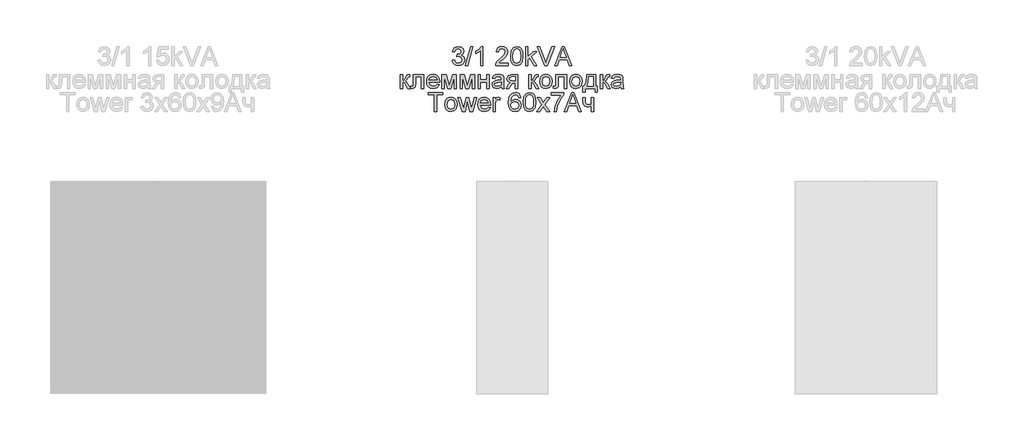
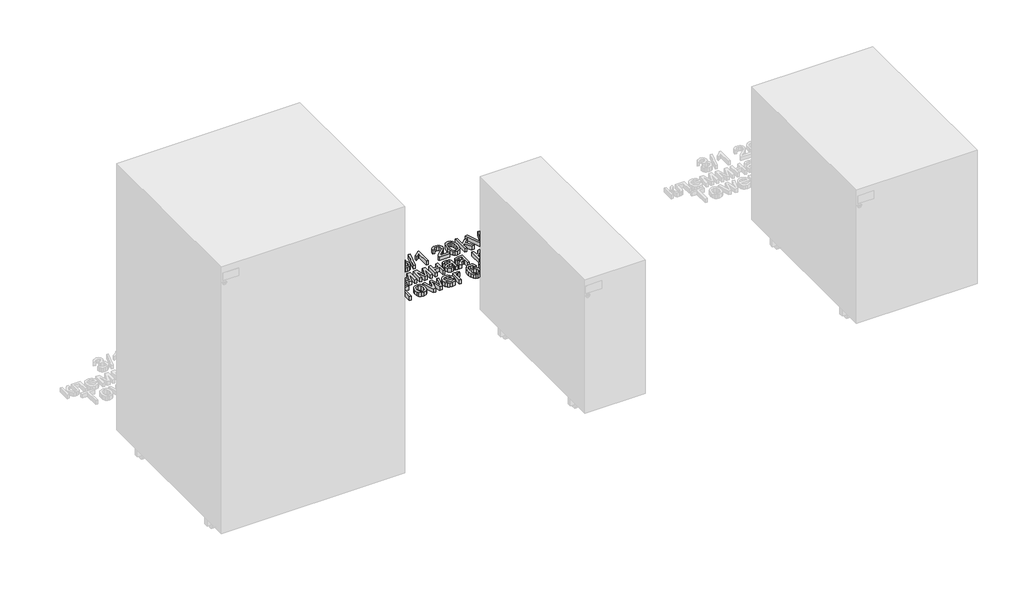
# One storey, part 47 of 74: 1 proxy.
"""IFC4 building model written with IfcOpenShell, lengths in millimetres."""

from ifc_helpers import new_model, si_unit, origin, origin_with_axes, place, context, project, spatial, polyline, outline, extrude, element, save

model = new_model("IFC4")

# Units and contexts
model_context = context("Model", 3, world=origin())
ifc_project = project(units=[si_unit("LENGTHUNIT", "METRE", prefix="MILLI")], contexts=[model_context])

# Site, building, storey
site = spatial("IfcSite", under=ifc_project)
building = spatial("IfcBuilding", under=site)
storey = spatial("IfcBuildingStorey", under=building, Name="Этаж 01", Elevation=0.0)

# Proxy
placement = place(None, origin())
element("IfcBuildingElementProxy", 1, Name="80 мм Arial", ObjectType="80 мм Arial", at=placement, inside=storey, context=model_context, shape_type="SweptSolid", body=[
    extrude(outline(polyline([(13098.3137414, -15105.2863601), (13108.3593724, -15104.0306562), (13113.9021278, -15114.6060373), (13124.2714949, -15117.8433988), (13136.475367, -15113.3895741), (13141.0076732, -15102.3629245), (13136.5146077, -15091.9739369), (13125.0955506, -15087.8634688), (13118.0518367, -15088.9622097), (13119.1701979, -15078.9165786), (13120.7790685, -15079.0343009), (13132.1785053, -15076.150106), (13137.2405615, -15067.2816974), (13133.5715518, -15059.423738), (13124.114532, -15056.3139089), (13114.5397899, -15059.4531685), (13109.6150762, -15068.8709476), (13099.5694452, -15067.6152437), (13107.7903816, -15051.8600842), (13123.7613652, -15046.2682778), (13135.8769456, -15049.0249403), (13144.3529468, -15056.5591635), (13147.2861926, -15066.6930862), (13144.5000996, -15075.9539023), (13136.2595429, -15082.6052088), (13147.2077111, -15089.4723394), (13151.0533042, -15102.5395078), (13149.1305076, -15112.330074), (13143.3621179, -15120.5117696), (13134.6555774, -15126.0447148), (13123.9183282, -15127.8890298), (13114.2062435, -15126.3144949), (13106.2992332, -15121.5908901), (13100.8006236, -15114.3656877), (13098.3137414, -15105.2863601)])), origin_with_axes(), (0.0, 0.0, 1.0), 20.0),
    extrude(outline(polyline([(13154.8204158, -15126.633326), (13177.4230856, -15046.2682778), (13186.487698, -15046.2682778), (13163.8850282, -15126.633326), (13154.8204158, -15126.633326)])), origin_with_axes(), (0.0, 0.0, 1.0), 20.0),
    extrude(outline(polyline([(13228.9069446, -15126.633326), (13218.8613135, -15126.633326), (13218.8613135, -15064.0050951), (13209.3454326, -15070.783934), (13198.7700515, -15075.8558004), (13198.7700515, -15066.3595399), (13213.4951415, -15056.9613812), (13222.4322214, -15046.2682778), (13228.9069446, -15046.2682778), (13228.9069446, -15126.633326)])), origin_with_axes(), (0.0, 0.0, 1.0), 20.0),
    extrude(outline(polyline([(13335.6417741, -15116.5876949), (13335.6417741, -15126.633326), (13282.9022113, -15126.633326), (13283.9813318, -15119.7073343), (13290.0832678, -15109.0436615), (13302.6599269, -15097.3989701), (13320.0043367, -15080.6627918), (13324.3404392, -15069.2829755), (13320.2495914, -15060.0712103), (13309.5662983, -15056.3139089), (13298.4317365, -15059.9829186), (13294.2035461, -15070.1266515), (13284.1579151, -15068.8709476), (13286.5932939, -15059.1539579), (13291.8589116, -15052.0562879), (13299.6800828, -15047.7152804), (13309.7821224, -15046.2682778), (13319.9577384, -15047.8771484), (13327.7641943, -15052.7037602), (13332.7306012, -15059.9142473), (13334.3860702, -15068.6747439), (13332.6006163, -15078.200435), (13326.6654534, -15088.0498623), (13312.2739098, -15101.813554), (13300.71751, -15111.4765878), (13296.1852038, -15116.5876949), (13335.6417741, -15116.5876949)])), origin_with_axes(), (0.0, 0.0, 1.0), 20.0),
    extrude(outline(polyline([(13345.6874051, -15087.0982742), (13348.6402712, -15063.9756645), (13357.410578, -15050.643621), (13372.0571865, -15046.2682778), (13383.7901696, -15048.8581671), (13391.8933837, -15056.323719), (13396.6022732, -15068.2136651), (13398.4269679, -15087.0982742), (13395.5035323, -15110.122782), (13386.7626561, -15123.4842561), (13372.0571865, -15127.8890298), (13361.619148, -15125.9760435), (13353.6925173, -15120.2370843), (13347.6886832, -15106.6450709), (13345.6874051, -15087.0982742)]), holes=[polyline([(13355.7330361, -15087.0786538), (13356.9102585, -15102.8804118), (13360.4419257, -15112.0259582), (13372.0571865, -15117.8433988), (13383.6724474, -15112.0063378), (13387.2041145, -15102.8558863), (13388.3813369, -15087.0786538), (13387.2433553, -15071.6325151), (13383.8294104, -15062.4158449), (13378.5809606, -15057.8393929), (13371.9394643, -15056.3139089), (13360.5988886, -15061.6898911), (13356.9494992, -15071.4804572), (13355.7330361, -15087.0786538)])]), origin_with_axes(), (0.0, 0.0, 1.0), 20.0),
    extrude(outline(polyline([(13409.7283028, -15126.633326), (13409.7283028, -15046.2682778), (13419.7739338, -15046.2682778), (13419.7739338, -15089.452719), (13442.2981221, -15067.6152437), (13456.1893463, -15067.6152437), (13433.3904728, -15089.7274042), (13457.4450501, -15126.633326), (13445.712067, -15126.633326), (13426.1897958, -15096.712257), (13419.7739338, -15102.9319153), (13419.7739338, -15126.633326), (13409.7283028, -15126.633326)])), origin_with_axes(), (0.0, 0.0, 1.0), 20.0),
    extrude(outline(polyline([(13532.2182919, -15126.633326), (13564.2976019, -15046.2682778), (13572.8520846, -15046.2682778), (13604.9313946, -15126.633326), (13594.3167727, -15126.633326), (13585.1148177, -15101.5192484), (13552.0152484, -15101.5192484), (13542.8329138, -15126.633326), (13532.2182919, -15126.633326)]), holes=[polyline([(13555.7038785, -15091.4736174), (13581.445808, -15091.4736174), (13574.2058903, -15071.7159017), (13568.5748432, -15056.3139089), (13563.5716481, -15069.9893089), (13555.7038785, -15091.4736174)])]), origin_with_axes(), (0.0, 0.0, 1.0), 20.0),
    extrude(outline(polyline([(13491.2313326, -15126.633326), (13459.2501245, -15046.2682778), (13470.0020889, -15046.2682778), (13491.4079159, -15104.1679988), (13495.7440184, -15117.2155469), (13500.0212597, -15104.1679988), (13521.4859479, -15046.2682778), (13532.2379123, -15046.2682778), (13501.6105099, -15126.633326), (13491.2313326, -15126.633326)])), origin_with_axes(), (0.0, 0.0, 1.0), 20.0),
    extrude(outline(polyline([(12879.1934148, -15165.195098), (12889.2390459, -15165.195098), (12889.2390459, -15190.3091756), (12895.9688338, -15188.5041012), (12901.4821587, -15177.9875813), (12906.0635158, -15168.9131587), (12910.1053126, -15165.9602926), (12917.4531423, -15165.195098), (12919.3759389, -15165.195098), (12919.3759389, -15175.2995902), (12916.6683274, -15175.240729), (12911.7632341, -15176.3002292), (12908.3100485, -15182.9122949), (12904.2584414, -15190.0639209), (12898.5783434, -15193.5661575), (12904.9157239, -15197.4755168), (12911.1353822, -15205.7111684), (12921.8873467, -15224.2131802), (12910.4682895, -15224.2131802), (12899.9321492, -15206.1035759), (12894.6346485, -15198.4418202), (12889.2390459, -15196.5876949), (12889.2390459, -15224.2131802), (12879.1934148, -15224.2131802), (12879.1934148, -15165.195098)])), origin_with_axes(), (0.0, 0.0, 1.0), 20.0),
    extrude(outline(polyline([(12933.1886815, -15165.195098), (12978.3940211, -15165.195098), (12978.3940211, -15224.1543191), (12968.3483901, -15224.1543191), (12968.3483901, -15175.240729), (12943.2343126, -15175.240729), (12943.2343126, -15203.3959644), (12942.5574097, -15216.3846514), (12938.839349, -15221.8685457), (12930.0494219, -15224.2131802), (12921.8873467, -15223.7030505), (12921.8873467, -15214.1675492), (12926.3804121, -15214.1675492), (12930.9225285, -15213.5495075), (12932.737413, -15211.5874702), (12933.1886815, -15202.8269736), (12933.1886815, -15165.195098)])), origin_with_axes(), (0.0, 0.0, 1.0), 20.0),
    extrude(outline(polyline([(13034.7829733, -15206.633326), (13044.6324006, -15207.8890298), (13035.4206355, -15220.8580964), (13018.2626192, -15225.4688841), (13006.4756801, -15223.4798688), (12997.4061626, -15217.5128228), (12991.6230577, -15207.9552486), (12989.695356, -15195.1946485), (12991.642678, -15182.0048527), (12997.4846441, -15172.1407101), (13006.4315342, -15165.9897231), (13017.6936284, -15163.9393941), (13028.6050084, -15165.984818), (13037.3238116, -15172.1210897), (13043.0406979, -15181.9656119), (13044.9463266, -15195.1357873), (13044.8874655, -15197.8433988), (12999.740987, -15197.8433988), (13005.5191869, -15210.8909469), (13018.4588229, -15215.4232531), (13028.3082502, -15213.3238732), (13034.7829733, -15206.633326)]), holes=[polyline([(12999.740987, -15187.7977678), (13034.9006956, -15187.7977678), (13030.8785191, -15178.6939147), (13017.6543876, -15173.9850252), (13005.2837424, -15177.7423266), (12999.740987, -15187.7977678)])]), origin_with_axes(), (0.0, 0.0, 1.0), 20.0),
    extrude(outline(polyline([(13054.9919576, -15165.195098), (13072.2775063, -15165.195098), (13085.5997396, -15212.4409564), (13099.9618527, -15165.195098), (13116.5214476, -15165.195098), (13116.5214476, -15224.2131802), (13106.4758166, -15224.2131802), (13106.4758166, -15176.6926366), (13092.035222, -15224.2131802), (13078.8503313, -15224.2131802), (13065.0375886, -15174.4166734), (13065.0375886, -15224.2131802), (13054.9919576, -15224.2131802), (13054.9919576, -15165.195098)])), origin_with_axes(), (0.0, 0.0, 1.0), 20.0),
    extrude(outline(polyline([(13131.5898941, -15165.195098), (13148.8754428, -15165.195098), (13162.1976761, -15212.4409564), (13176.5597892, -15165.195098), (13193.1193841, -15165.195098), (13193.1193841, -15224.2131802), (13183.073753, -15224.2131802), (13183.073753, -15176.6926366), (13168.6331585, -15224.2131802), (13155.4482678, -15224.2131802), (13141.6355251, -15174.4166734), (13141.6355251, -15224.2131802), (13131.5898941, -15224.2131802), (13131.5898941, -15165.195098)])), origin_with_axes(), (0.0, 0.0, 1.0), 20.0),
    extrude(outline(polyline([(13208.1878306, -15165.195098), (13218.2334616, -15165.195098), (13218.2334616, -15187.7977678), (13244.603243, -15187.7977678), (13244.603243, -15165.195098), (13254.648874, -15165.195098), (13254.648874, -15224.2131802), (13244.603243, -15224.2131802), (13244.603243, -15197.8433988), (13218.2334616, -15197.8433988), (13218.2334616, -15224.2131802), (13208.1878306, -15224.2131802), (13208.1878306, -15165.195098)])), origin_with_axes(), (0.0, 0.0, 1.0), 20.0),
    extrude(outline(polyline([(13307.3884369, -15216.678957), (13297.6469216, -15223.4872264), (13286.885147, -15225.4688841), (13272.2973996, -15220.7011335), (13267.2059128, -15208.5168818), (13269.1287094, -15200.5706307), (13274.1809554, -15194.802241), (13281.2148592, -15191.5060183), (13289.9066844, -15189.9952496), (13307.3295757, -15186.5420639), (13307.3884369, -15184.3053414), (13304.6219643, -15176.8888404), (13293.5168331, -15173.9850252), (13283.3534798, -15175.9176319), (13278.5072477, -15182.7749523), (13268.4616167, -15181.5192484), (13272.8075293, -15171.7090619), (13281.5582157, -15165.9602926), (13294.8117777, -15163.9393941), (13306.9862192, -15165.7248481), (13313.86316, -15170.2081033), (13316.9435585, -15177.026183), (13317.4340679, -15185.8161101), (13317.4340679, -15198.3142878), (13317.9441976, -15215.7666096), (13319.9454756, -15224.2131802), (13309.8998446, -15224.2131802), (13307.3884369, -15216.678957)]), holes=[polyline([(13307.3884369, -15196.5876949), (13291.1820087, -15199.6680935), (13282.5392344, -15201.2965845), (13278.6249699, -15203.9453348), (13277.2515438, -15207.8105483), (13280.2436507, -15213.2453917), (13289.0237677, -15215.4232531), (13299.1871209, -15213.0197574), (13305.7403255, -15207.2023168), (13307.3295757, -15199.432649), (13307.3884369, -15196.5876949)])]), origin_with_axes(), (0.0, 0.0, 1.0), 20.0),
    extrude(outline(polyline([(13376.4521501, -15165.195098), (13376.4521501, -15224.2131802), (13366.4065191, -15224.2131802), (13366.4065191, -15201.6105105), (13360.932435, -15201.6105105), (13353.4766932, -15202.8858347), (13346.47222, -15211.4599377), (13338.4671078, -15224.2131802), (13326.8518469, -15224.2131802), (13336.9367187, -15208.0852336), (13345.4912014, -15199.7269546), (13333.797459, -15193.6250186), (13329.9911066, -15182.2452022), (13335.1905055, -15169.9236079), (13350.2393317, -15165.195098), (13376.4521501, -15165.195098)]), holes=[polyline([(13366.4065191, -15175.240729), (13353.1627672, -15175.240729), (13342.4402334, -15177.5657432), (13340.0367377, -15183.0103968), (13343.578215, -15189.4949301), (13356.1254436, -15191.5648794), (13366.4065191, -15191.5648794), (13366.4065191, -15175.240729)])]), origin_with_axes(), (0.0, 0.0, 1.0), 20.0),
    extrude(outline(polyline([(13422.9131935, -15165.195098), (13432.9588245, -15165.195098), (13432.9588245, -15190.3091756), (13439.6886125, -15188.5041012), (13445.2019373, -15177.9875813), (13449.7832945, -15168.9131587), (13453.8250913, -15165.9602926), (13461.172921, -15165.195098), (13463.0957176, -15165.195098), (13463.0957176, -15175.2995902), (13460.3881061, -15175.240729), (13455.4830128, -15176.3002292), (13452.0298272, -15182.9122949), (13447.9782201, -15190.0639209), (13442.2981221, -15193.5661575), (13448.6355026, -15197.4755168), (13454.8551609, -15205.7111684), (13465.6071253, -15224.2131802), (13454.1880682, -15224.2131802), (13443.6519279, -15206.1035759), (13438.3544271, -15198.4418202), (13432.9588245, -15196.5876949), (13432.9588245, -15224.2131802), (13422.9131935, -15224.2131802), (13422.9131935, -15165.195098)])), origin_with_axes(), (0.0, 0.0, 1.0), 20.0),
    extrude(outline(polyline([(13469.374237, -15194.7041391), (13471.5471933, -15180.4744636), (13478.0660622, -15170.4729784), (13486.1202254, -15165.5727902), (13495.7636388, -15163.9393941), (13506.3169469, -15165.9284095), (13514.7463497, -15171.8954554), (13520.2719373, -15181.3696431), (13522.1137998, -15193.8800835), (13518.8568179, -15211.7542433), (13509.3703675, -15221.8685457), (13495.7636388, -15225.4688841), (13485.0827982, -15223.4872264), (13476.6632056, -15217.5422534), (13471.1964791, -15207.8694095), (13469.374237, -15194.7041391)]), holes=[polyline([(13479.419868, -15194.6845188), (13484.0698964, -15210.2532848), (13495.7636388, -15215.4232531), (13507.4181404, -15210.2238542), (13512.0681688, -15194.3705928), (13507.3887098, -15179.1549935), (13495.7636388, -15173.9850252), (13484.0698964, -15179.1353731), (13479.419868, -15194.6845188)])]), origin_with_axes(), (0.0, 0.0, 1.0), 20.0),
    extrude(outline(polyline([(13538.4379502, -15165.195098), (13583.6432898, -15165.195098), (13583.6432898, -15224.1543191), (13573.5976588, -15224.1543191), (13573.5976588, -15175.240729), (13548.4835812, -15175.240729), (13548.4835812, -15203.3959644), (13547.8066783, -15216.3846514), (13544.0886176, -15221.8685457), (13535.2986905, -15224.2131802), (13527.1366153, -15223.7030505), (13527.1366153, -15214.1675492), (13531.6296807, -15214.1675492), (13536.1717971, -15213.5495075), (13537.9866816, -15211.5874702), (13538.4379502, -15202.8269736), (13538.4379502, -15165.195098)])), origin_with_axes(), (0.0, 0.0, 1.0), 20.0),
    extrude(outline(polyline([(13596.2003285, -15194.7041391), (13598.3732849, -15180.4744636), (13604.8921538, -15170.4729784), (13612.946317, -15165.5727902), (13622.5897303, -15163.9393941), (13633.1430385, -15165.9284095), (13641.5724413, -15171.8954554), (13647.0980288, -15181.3696431), (13648.9398914, -15193.8800835), (13645.6829094, -15211.7542433), (13636.1964591, -15221.8685457), (13622.5897303, -15225.4688841), (13611.9088897, -15223.4872264), (13603.4892971, -15217.5422534), (13598.0225707, -15207.8694095), (13596.2003285, -15194.7041391)]), holes=[polyline([(13606.2459596, -15194.6845188), (13610.895988, -15210.2532848), (13622.5897303, -15215.4232531), (13634.2442319, -15210.2238542), (13638.8942603, -15194.3705928), (13634.2148014, -15179.1549935), (13622.5897303, -15173.9850252), (13610.895988, -15179.1353731), (13606.2459596, -15194.6845188)])]), origin_with_axes(), (0.0, 0.0, 1.0), 20.0),
    extrude(outline(polyline([(13669.0311534, -15165.195098), (13706.7022697, -15165.195098), (13706.7022697, -15214.1675492), (13714.236493, -15214.1675492), (13714.236493, -15240.5373306), (13704.1908619, -15240.5373306), (13704.1908619, -15224.2131802), (13662.752634, -15224.2131802), (13662.752634, -15240.5373306), (13652.707003, -15240.5373306), (13652.707003, -15214.1675492), (13658.9855224, -15214.1675492), (13666.7453799, -15195.0082549), (13669.0311534, -15165.195098)]), holes=[polyline([(13677.8210805, -15175.240729), (13675.4666358, -15198.1278942), (13670.2868573, -15214.1675492), (13696.6566387, -15214.1675492), (13696.6566387, -15175.240729), (13677.8210805, -15175.240729)])]), origin_with_axes(), (0.0, 0.0, 1.0), 20.0),
    extrude(outline(polyline([(13725.5378279, -15165.195098), (13735.5834589, -15165.195098), (13735.5834589, -15190.3091756), (13742.3132468, -15188.5041012), (13747.8265717, -15177.9875813), (13752.4079288, -15168.9131587), (13756.4497256, -15165.9602926), (13763.7975554, -15165.195098), (13765.7203519, -15165.195098), (13765.7203519, -15175.2995902), (13763.0127404, -15175.240729), (13758.1076472, -15176.3002292), (13754.6544615, -15182.9122949), (13750.6028545, -15190.0639209), (13744.9227565, -15193.5661575), (13751.260137, -15197.4755168), (13757.4797952, -15205.7111684), (13768.2317597, -15224.2131802), (13756.8127025, -15224.2131802), (13746.2765622, -15206.1035759), (13740.9790615, -15198.4418202), (13735.5834589, -15196.5876949), (13735.5834589, -15224.2131802), (13725.5378279, -15224.2131802), (13725.5378279, -15165.195098)])), origin_with_axes(), (0.0, 0.0, 1.0), 20.0),
    extrude(outline(polyline([(13812.1813954, -15216.678957), (13802.4398801, -15223.4872264), (13791.6781055, -15225.4688841), (13777.0903581, -15220.7011335), (13771.9988713, -15208.5168818), (13773.9216679, -15200.5706307), (13778.9739139, -15194.802241), (13786.0078177, -15191.5060183), (13794.6996429, -15189.9952496), (13812.1225342, -15186.5420639), (13812.1813954, -15184.3053414), (13809.4149228, -15176.8888404), (13798.3097916, -15173.9850252), (13788.1464383, -15175.9176319), (13783.3002062, -15182.7749523), (13773.2545752, -15181.5192484), (13777.6004878, -15171.7090619), (13786.3511742, -15165.9602926), (13799.6047362, -15163.9393941), (13811.7791777, -15165.7248481), (13818.6561185, -15170.2081033), (13821.736517, -15177.026183), (13822.2270264, -15185.8161101), (13822.2270264, -15198.3142878), (13822.7371561, -15215.7666096), (13824.7384341, -15224.2131802), (13814.6928031, -15224.2131802), (13812.1813954, -15216.678957)]), holes=[polyline([(13812.1813954, -15196.5876949), (13795.9749672, -15199.6680935), (13787.3321929, -15201.2965845), (13783.4179284, -15203.9453348), (13782.0445023, -15207.8105483), (13785.0366092, -15213.2453917), (13793.8167262, -15215.4232531), (13803.9800794, -15213.0197574), (13810.533284, -15207.2023168), (13812.1225342, -15199.432649), (13812.1813954, -15196.5876949)])]), origin_with_axes(), (0.0, 0.0, 1.0), 20.0),
    extrude(outline(polyline([(13022.9715087, -15321.7930345), (13022.9715087, -15251.4736174), (12996.6017273, -15251.4736174), (12996.6017273, -15241.4279864), (13059.3869212, -15241.4279864), (13059.3869212, -15251.4736174), (13033.0171398, -15251.4736174), (13033.0171398, -15321.7930345), (13022.9715087, -15321.7930345)])), origin_with_axes(), (0.0, 0.0, 1.0), 20.0),
    extrude(outline(polyline([(13066.9211444, -15292.2839934), (13069.0941008, -15278.0543178), (13075.6129697, -15268.0528327), (13083.6671329, -15263.1526445), (13093.3105462, -15261.5192484), (13103.8638544, -15263.5082637), (13112.2932572, -15269.4753097), (13117.8188447, -15278.9494974), (13119.6607073, -15291.4599377), (13116.4037253, -15309.3340976), (13106.917275, -15319.4483999), (13093.3105462, -15323.0487384), (13082.6297056, -15321.0670807), (13074.210113, -15315.1221077), (13068.7433866, -15305.4492637), (13066.9211444, -15292.2839934)]), holes=[polyline([(13076.9667754, -15292.264373), (13081.6168039, -15307.8331391), (13093.3105462, -15313.0031074), (13104.9650478, -15307.8037085), (13109.6150762, -15291.9504471), (13104.9356173, -15276.7348477), (13093.3105462, -15271.5648794), (13081.6168039, -15276.7152274), (13076.9667754, -15292.264373)])]), origin_with_axes(), (0.0, 0.0, 1.0), 20.0),
    extrude(outline(polyline([(13140.7526083, -15321.7930345), (13122.799967, -15262.7749523), (13133.2380054, -15262.7749523), (13143.4209791, -15297.208707), (13146.4621369, -15309.510681), (13148.9539243, -15297.6599756), (13157.0571383, -15262.7749523), (13169.0255659, -15262.7749523), (13177.0895393, -15297.5618738), (13179.3066414, -15308.2942178), (13182.4851419, -15296.9732626), (13192.6877359, -15262.7749523), (13203.1650151, -15262.7749523), (13185.0750311, -15321.7930345), (13172.9300202, -15321.7930345), (13165.2192135, -15287.1826964), (13162.982491, -15276.3914912), (13153.0349619, -15321.7930345), (13140.7526083, -15321.7930345)])), origin_with_axes(), (0.0, 0.0, 1.0), 20.0),
    extrude(outline(polyline([(13251.3918921, -15304.2131802), (13261.2413194, -15305.4688841), (13252.0295542, -15318.4379507), (13234.871538, -15323.0487384), (13223.0845988, -15321.0597231), (13214.0150814, -15315.0926771), (13208.2319764, -15305.5351029), (13206.3042748, -15292.7745027), (13208.2515968, -15279.5847069), (13214.0935629, -15269.7205644), (13223.040453, -15263.5695774), (13234.3025471, -15261.5192484), (13245.2139271, -15263.5646723), (13253.9327304, -15269.700944), (13259.6496166, -15279.5454662), (13261.5552453, -15292.7156416), (13261.4963842, -15295.4232531), (13216.3499058, -15295.4232531), (13222.1281057, -15308.4708012), (13235.0677417, -15313.0031074), (13244.917169, -15310.9037275), (13251.3918921, -15304.2131802)]), holes=[polyline([(13216.3499058, -15285.3776221), (13251.5096143, -15285.3776221), (13247.4874379, -15276.273769), (13234.2633064, -15271.5648794), (13221.8926612, -15275.3221809), (13216.3499058, -15285.3776221)])]), origin_with_axes(), (0.0, 0.0, 1.0), 20.0),
    extrude(outline(polyline([(13271.6008764, -15321.7930345), (13271.6008764, -15262.7749523), (13280.3908035, -15262.7749523), (13280.3908035, -15271.5060183), (13286.6300821, -15263.4616654), (13292.9086015, -15261.5192484), (13302.9934733, -15264.6192674), (13299.6383895, -15273.6250186), (13292.5750552, -15271.5648794), (13286.8949572, -15273.5465371), (13283.2749983, -15279.0402416), (13281.6465074, -15290.7732247), (13281.6465074, -15321.7930345), (13271.6008764, -15321.7930345)])), origin_with_axes(), (0.0, 0.0, 1.0), 20.0),
    extrude(outline(polyline([(13389.6370408, -15262.7749523), (13379.5914098, -15264.0306562), (13375.7850574, -15255.6527569), (13365.719806, -15251.4736174), (13356.6551936, -15253.9065437), (13349.7978733, -15263.0398273), (13346.943109, -15280.9434178), (13355.8017074, -15272.9284954), (13366.7793062, -15270.3091756), (13376.0597426, -15272.0995346), (13383.8490307, -15277.4706117), (13389.1318162, -15285.6768328), (13390.8927447, -15295.9726235), (13387.5769016, -15309.8344171), (13378.4534281, -15319.6446037), (13365.2881578, -15323.0487384), (13353.8911736, -15320.7923955), (13344.8142985, -15314.0233668), (13338.8766831, -15302.0745596), (13336.897478, -15284.2788812), (13339.0949597, -15264.2710057), (13345.6874051, -15250.5907006), (13354.6882512, -15243.7186649), (13366.3476579, -15241.4279864), (13375.1621106, -15242.8455583), (13382.2205398, -15247.0982742), (13389.6370408, -15262.7749523)]), holes=[polyline([(13346.943109, -15295.8156606), (13349.2681232, -15304.517296), (13355.4485407, -15310.8350561), (13364.5033429, -15313.0031074), (13376.344238, -15308.5100419), (13380.8471137, -15296.3061699), (13376.4030992, -15284.6222377), (13364.091315, -15280.3548066), (13351.9364939, -15284.6222377), (13346.943109, -15295.8156606)])]), origin_with_axes(), (0.0, 0.0, 1.0), 20.0),
    extrude(outline(polyline([(13399.6826718, -15282.2579828), (13402.635538, -15259.1353731), (13411.4058447, -15245.8033296), (13426.0524532, -15241.4279864), (13437.7854363, -15244.0178756), (13445.8886504, -15251.4834276), (13450.5975399, -15263.3733737), (13452.4222346, -15282.2579828), (13449.498799, -15305.2824906), (13440.7579228, -15318.6439646), (13426.0524532, -15323.0487384), (13415.6144147, -15321.135752), (13407.687784, -15315.3967929), (13401.6839499, -15301.8047794), (13399.6826718, -15282.2579828)]), holes=[polyline([(13409.7283028, -15282.2383624), (13410.9055252, -15298.0401204), (13414.4371924, -15307.1856668), (13426.0524532, -15313.0031074), (13437.6677141, -15307.1660464), (13441.1993812, -15298.0155949), (13442.3766036, -15282.2383624), (13441.238622, -15266.7922237), (13437.8246771, -15257.5755534), (13432.5762273, -15252.9991014), (13425.934731, -15251.4736174), (13414.5941553, -15256.8495996), (13410.944766, -15266.6401658), (13409.7283028, -15282.2383624)])]), origin_with_axes(), (0.0, 0.0, 1.0), 20.0),
    extrude(outline(polyline([(13457.4450501, -15321.7930345), (13478.9097383, -15292.1270304), (13458.700754, -15262.7749523), (13470.7869038, -15262.7749523), (13480.5382293, -15276.9016209), (13485.0901558, -15283.5725478), (13489.0338508, -15278.118084), (13500.138982, -15262.7749523), (13512.2251318, -15262.7749523), (13490.9958881, -15292.1270304), (13511.4403168, -15321.7930345), (13499.354167, -15321.7930345), (13487.0521931, -15303.9581154), (13484.7958502, -15300.7011335), (13469.5312, -15321.7930345), (13457.4450501, -15321.7930345)])), origin_with_axes(), (0.0, 0.0, 1.0), 20.0),
    extrude(outline(polyline([(13517.7188362, -15252.7293213), (13517.7188362, -15242.6836903), (13570.4583991, -15242.6836903), (13570.4583991, -15250.8065247), (13555.4978646, -15272.4183657), (13544.0493769, -15299.9555593), (13540.321506, -15321.7930345), (13530.275875, -15321.7930345), (13534.2686209, -15299.1315036), (13545.2265993, -15273.5171066), (13560.412768, -15252.7293213), (13517.7188362, -15252.7293213)])), origin_with_axes(), (0.0, 0.0, 1.0), 20.0),
    extrude(outline(polyline([(13573.6565199, -15321.7930345), (13605.7358299, -15241.4279864), (13614.2903125, -15241.4279864), (13646.3696225, -15321.7930345), (13635.7550007, -15321.7930345), (13626.5530457, -15296.678957), (13593.4534763, -15296.678957), (13584.2711417, -15321.7930345), (13573.6565199, -15321.7930345)]), holes=[polyline([(13597.1421064, -15286.633326), (13622.8840359, -15286.633326), (13615.6441183, -15266.8756103), (13610.0130712, -15251.4736174), (13605.009876, -15265.1490174), (13597.1421064, -15286.633326)])]), origin_with_axes(), (0.0, 0.0, 1.0), 20.0),
    extrude(outline(polyline([(13652.0791511, -15262.7749523), (13662.1247821, -15262.7749523), (13662.1247821, -15274.0959076), (13662.9390276, -15284.7105294), (13666.853292, -15290.4592987), (13674.6229597, -15292.9118453), (13688.4945635, -15289.8706875), (13688.4945635, -15262.7749523), (13698.5401945, -15262.7749523), (13698.5401945, -15321.7930345), (13688.4945635, -15321.7930345), (13688.4945635, -15299.5042907), (13671.9349686, -15302.9574764), (13660.545342, -15299.3571379), (13653.8449846, -15290.5377802), (13652.0791511, -15279.059862), (13652.0791511, -15262.7749523)])), origin_with_axes(), (0.0, 0.0, 1.0), 20.0),
])

save(model, "model.ifc")
